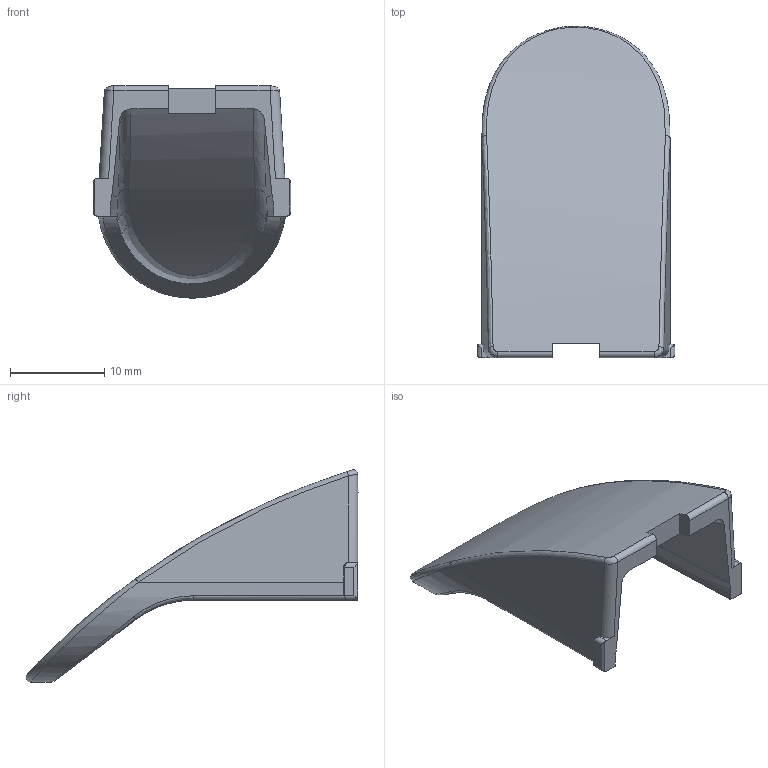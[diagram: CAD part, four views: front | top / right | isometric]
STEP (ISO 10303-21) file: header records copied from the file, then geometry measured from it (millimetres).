
FILE_DESCRIPTION (( 'STEP AP214' ), '1' );
FILE_NAME ('4.04.spmhc.STEP', '2015-05-30T10:26:57', ( '' ), ( '' ), 'SwSTEP 2.0', 'SolidWorks 2015', '' );
FILE_SCHEMA (( 'AUTOMOTIVE_DESIGN' ));
Length unit declared in the file: millimetre
Products named in the file (1): 4.04.spmhc
Bounding box: 21 x 35.23 x 22.52 mm (x, y, z)
Volume: 2401.6 mm3; surface area: 2302 mm2
Topology: 1 solids, 1 shells, 59 faces, 155 edges, 98 vertices
Faces by surface type: cylinder 21, plane 20, bspline 16, cone 2
Entity records: 2833 total; most frequent: CARTESIAN_POINT 1537, ORIENTED_EDGE 310, DIRECTION 204, EDGE_CURVE 155, VERTEX_POINT 98, AXIS2_PLACEMENT_3D 71, VECTOR 62, LINE 62
